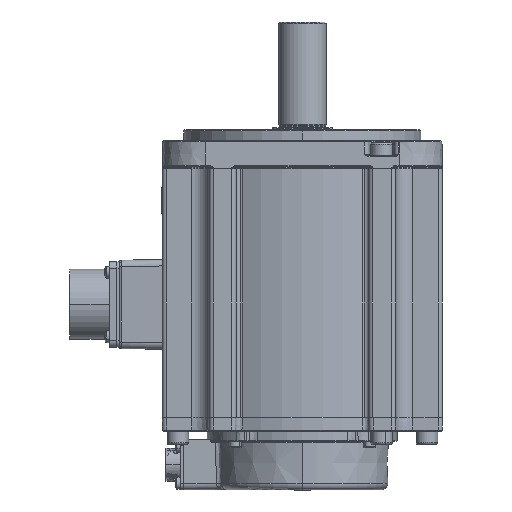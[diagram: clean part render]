
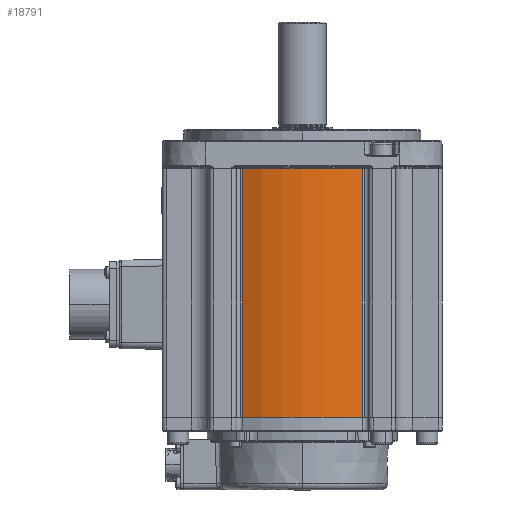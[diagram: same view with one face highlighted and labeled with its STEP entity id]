
A CAD part, left-side view. The second image highlights one B-rep face of the part: STEP entity #18791.
In plain terms, the highlighted cylindrical face has radius 64.5 mm (diameter 129 mm), a partial arc.
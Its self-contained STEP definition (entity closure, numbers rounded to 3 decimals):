
#1965 = CARTESIAN_POINT ( 'NONE',  ( -58.154, 27.9, -57.7 ) ) ;
#3471 = DIRECTION ( 'NONE',  ( 0., -1., 0. ) ) ;
#3622 = EDGE_CURVE ( 'NONE', #18882, #37447, #43685, .T. ) ;
#6672 = VECTOR ( 'NONE', #11308, 1000. ) ;
#7147 = DIRECTION ( 'NONE',  ( 0., 0., -1. ) ) ;
#7404 = CARTESIAN_POINT ( 'NONE',  ( -58.154, -27.9, -58.7 ) ) ;
#9446 = EDGE_CURVE ( 'NONE', #13803, #37447, #46953, .T. ) ;
#9822 = AXIS2_PLACEMENT_3D ( 'NONE', #30577, #7147, #34476 ) ;
#9925 = ORIENTED_EDGE ( 'NONE', *, *, #34876, .T. ) ;
#10074 = FACE_OUTER_BOUND ( 'NONE', #38489, .T. ) ;
#10737 = EDGE_CURVE ( 'NONE', #18882, #46714, #36267, .T. ) ;
#11308 = DIRECTION ( 'NONE',  ( 0., 0., 1. ) ) ;
#13286 = ORIENTED_EDGE ( 'NONE', *, *, #3622, .T. ) ;
#13803 = VERTEX_POINT ( 'NONE', #19660 ) ;
#18791 = ADVANCED_FACE ( 'NONE', ( #10074 ), #29671, .T. ) ;
#18882 = VERTEX_POINT ( 'NONE', #22711 ) ;
#19660 = CARTESIAN_POINT ( 'NONE',  ( -58.154, -27.9, -57.7 ) ) ;
#22711 = CARTESIAN_POINT ( 'NONE',  ( -58.154, 27.9, 57.7 ) ) ;
#26930 = DIRECTION ( 'NONE',  ( 0., 0., 1. ) ) ;
#29527 = AXIS2_PLACEMENT_3D ( 'NONE', #50275, #26930, #3471 ) ;
#29671 = CYLINDRICAL_SURFACE ( 'NONE', #39751, 64.5 ) ;
#30577 = CARTESIAN_POINT ( 'NONE',  ( 0., 0., -57.7 ) ) ;
#31149 = LINE ( 'NONE', #7404, #6672 ) ;
#32516 = DIRECTION ( 'NONE',  ( 0., 0., -1. ) ) ;
#32680 = ORIENTED_EDGE ( 'NONE', *, *, #9446, .F. ) ;
#33619 = DIRECTION ( 'NONE',  ( 1., 0., 0. ) ) ;
#34476 = DIRECTION ( 'NONE',  ( 0., 1., 0. ) ) ;
#34876 = EDGE_CURVE ( 'NONE', #13803, #46714, #31149, .T. ) ;
#35032 = ORIENTED_EDGE ( 'NONE', *, *, #10737, .F. ) ;
#36267 = CIRCLE ( 'NONE', #29527, 64.5 ) ;
#36601 = CARTESIAN_POINT ( 'NONE',  ( -58.154, 27.9, -58.7 ) ) ;
#37447 = VERTEX_POINT ( 'NONE', #1965 ) ;
#37529 = CARTESIAN_POINT ( 'NONE',  ( 0., 0., -58.7 ) ) ;
#38489 = EDGE_LOOP ( 'NONE', ( #32680, #9925, #35032, #13286 ) ) ;
#39751 = AXIS2_PLACEMENT_3D ( 'NONE', #37529, #45446, #33619 ) ;
#42453 = VECTOR ( 'NONE', #32516, 1000. ) ;
#43685 = LINE ( 'NONE', #36601, #42453 ) ;
#45446 = DIRECTION ( 'NONE',  ( 0., 0., 1. ) ) ;
#46714 = VERTEX_POINT ( 'NONE', #50579 ) ;
#46953 = CIRCLE ( 'NONE', #9822, 64.5 ) ;
#50275 = CARTESIAN_POINT ( 'NONE',  ( 0., 0., 57.7 ) ) ;
#50579 = CARTESIAN_POINT ( 'NONE',  ( -58.154, -27.9, 57.7 ) ) ;
